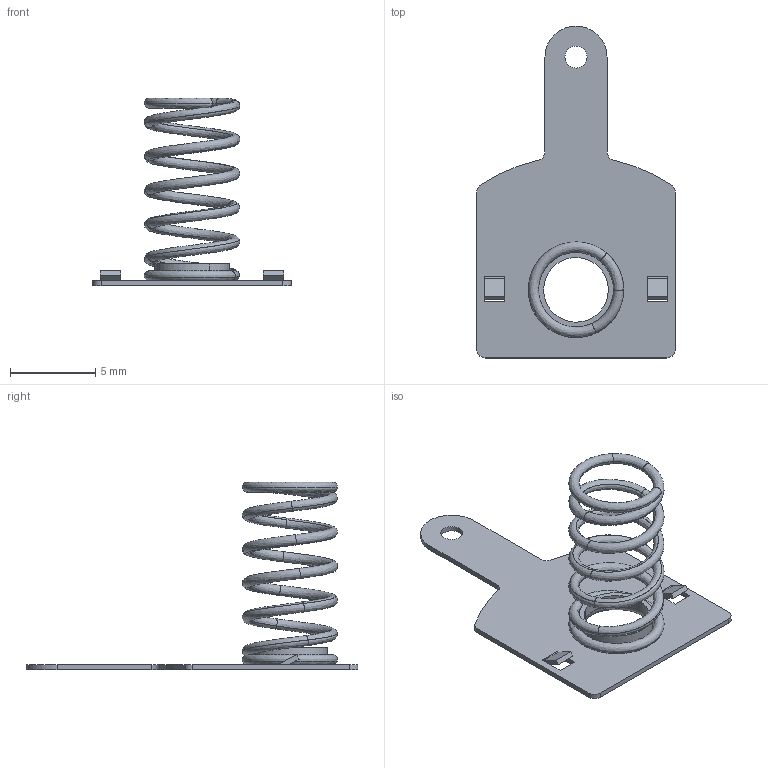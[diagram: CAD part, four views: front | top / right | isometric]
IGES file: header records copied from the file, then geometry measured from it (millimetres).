
Start section: START RECORD GO HERE.
Global section: file name: AA-Batteriekontakt_Minus.igs; native system: IBM CATIA IGES - CATIA Version 5 Release 19 ; preprocessor: CATIA Version 5 Release 19 ; author: admin; organization: M0815; date: 20260514.141947; units: millimetre
Bounding box: 11.65 x 19.5 x 11.04 mm (x, y, z)
Surface area: 523.4 mm2 (no closed solid volume)
Topology: 0 solids, 0 shells, 80 faces, 402 edges, 402 vertices
Faces by surface type: revolution 28, plane 26, bspline 26
